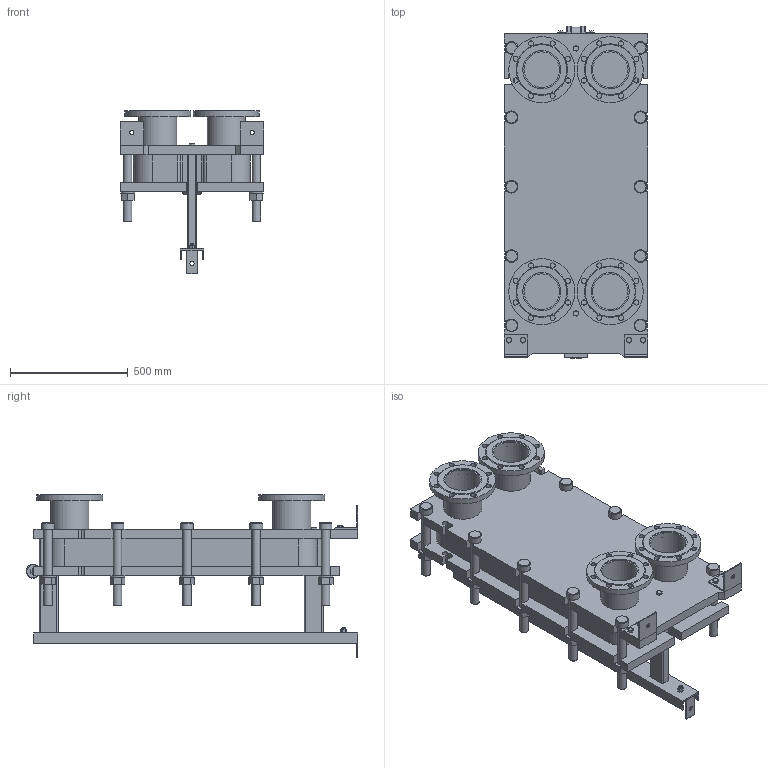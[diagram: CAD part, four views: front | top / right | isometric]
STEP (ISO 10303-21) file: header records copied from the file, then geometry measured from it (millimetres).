
FILE_DESCRIPTION(/* description */ (''),/* implementation_level */ '2;1');
FILE_NAME(/* name */ 'C:\Users\zhuro\Desktop\ENCO\TO\ЭН-041\ЭН-0,5-041-34-1.stp',/* time_stamp */ '2022-06-06T10:51:14+03:00',/* author */ ('zhuro'),/* organization */ (''),/* preprocessor_version */ 'ST-DEVELOPER v18.1',/* originating_system */ 'Autodesk Inventor 2022',/* authorisation */ '');
FILE_SCHEMA (('AUTOMOTIVE_DESIGN { 1 0 10303 214 3 1 1 }'));
Length unit declared in the file: millimetre
Products named in the file (1): ЭН-0,5-041-34-1
Bounding box: 610 x 1406.5 x 695 mm (x, y, z)
Volume: 141809055.8 mm3; surface area: 7569265.2 mm2
Topology: 52 solids, 52 shells, 711 faces, 1696 edges, 1094 vertices
Faces by surface type: plane 487, cylinder 177, cone 41, torus 6
Full cylindrical faces by diameter (mm): 8 x4, 10 x2, 16 x8, 18 x3, 22 x32, 36 x24, 50 x1, 54 x10, 60 x12, 151 x4, 161 x8, 280 x4
Entity records: 22667 total; most frequent: CARTESIAN_POINT 5230, DIRECTION 3644, ORIENTED_EDGE 3392, EDGE_CURVE 1696, AXIS2_PLACEMENT_3D 1272, LINE 1100, VECTOR 1100, VERTEX_POINT 1094
